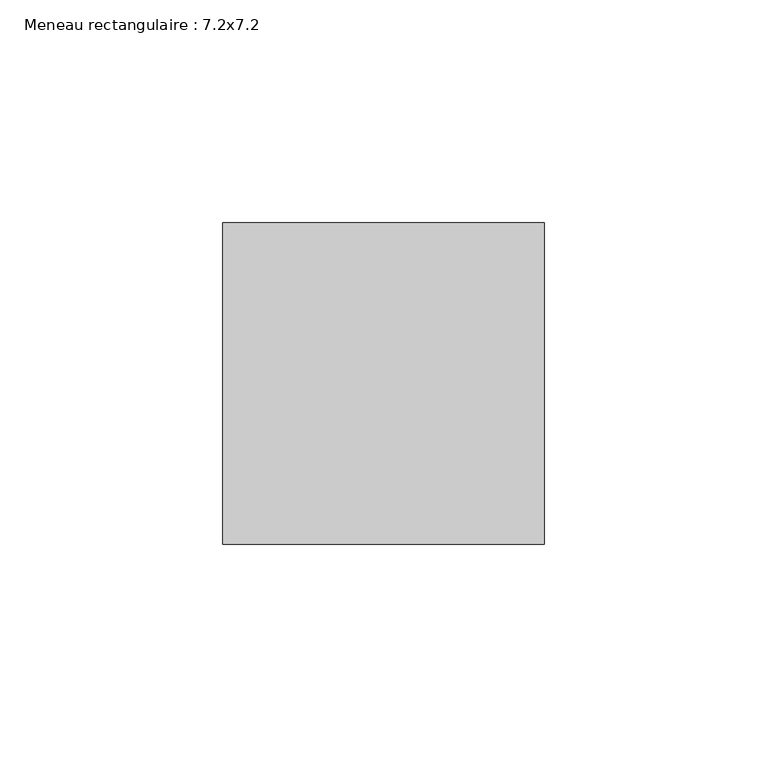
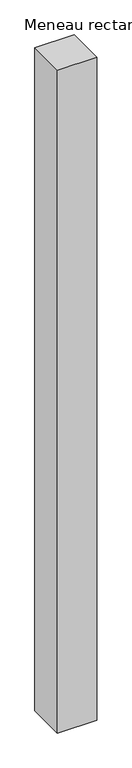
"""IFC4 building model written with IfcOpenShell, lengths in millimetres: member geometry, Meneau rectangulaire : 7.2x7.2."""

from ifc_helpers import new_model, si_unit, frame, origin, place, context, project, spatial, polyline, outline, extrude, source, transform, mapped, element, save


def meneau_rectangulaire_7_2x7_2_63e32c44(model_context):
    return source(origin(), model_context, "Body", "SweptSolid", [
        extrude(outline(polyline([(0.0, 36.0), (0.0, -36.0), (-72.0, -36.0), (-72.0, 36.0), (0.0, 36.0)])), frame((0.0, 0.0, -1290.0), z_axis=(0.0, 0.0, 1.0), x_axis=(1.0, 0.0, 0.0)), (0.0, 0.0, 1.0), 1290.0),
    ])


if __name__ == "__main__":
    model = new_model("IFC4")
    model_context = context("Model", 3, world=origin())
    ifc_project = project(units=[si_unit("LENGTHUNIT", "METRE", prefix="MILLI")], contexts=[model_context])
    site = spatial("IfcSite", under=ifc_project)
    building = spatial("IfcBuilding", under=site)
    placement = place(None, origin())
    meneau_rectangulaire_7_2x7_2_shape = meneau_rectangulaire_7_2x7_2_63e32c44(model_context)
    element("IfcMember", 1, ObjectType="Meneau rectangulaire : 7.2x7.2", at=placement, inside=building, context=model_context, shape_type="MappedRepresentation", body=[
        mapped(meneau_rectangulaire_7_2x7_2_shape, transform((0.0, 0.0, 0.0), x_axis=(1.0, 0.0, 0.0), y_axis=(0.0, 1.0, 0.0), z_axis=(0.0, 0.0, 1.0))),
    ])
    save(model, "model.ifc")
